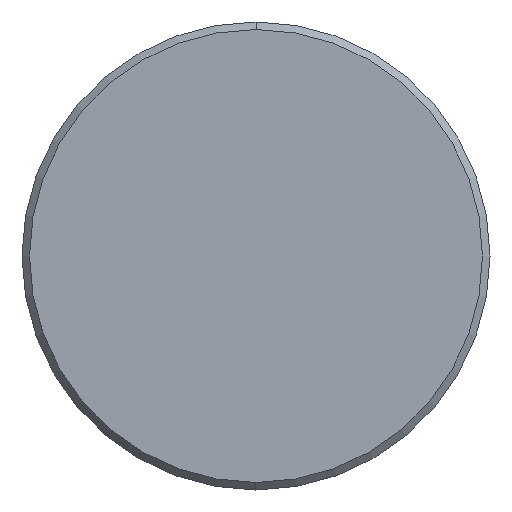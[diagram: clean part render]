
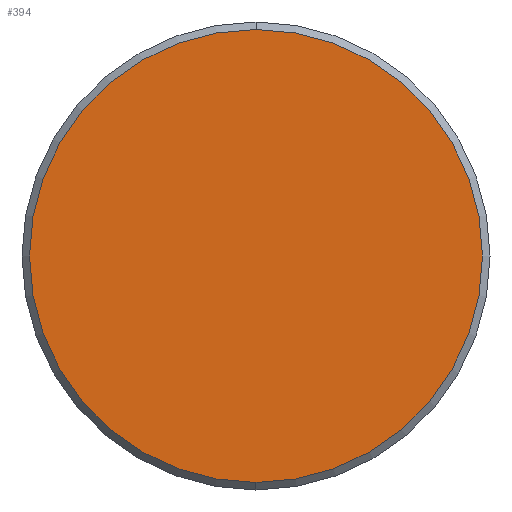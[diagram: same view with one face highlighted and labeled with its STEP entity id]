
A CAD part, left-side view. The second image highlights one B-rep face of the part: STEP entity #394.
In plain terms, the highlighted planar face has unit normal (-1, 0, 0).
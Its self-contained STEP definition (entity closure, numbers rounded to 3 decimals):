
#8 = EDGE_LOOP ( 'NONE', ( #763, #441 ) ) ;
#11 = CARTESIAN_POINT ( 'NONE',  ( 0., 0., 0. ) ) ;
#32 = DIRECTION ( 'NONE',  ( 0., 0., 1. ) ) ;
#44 = AXIS2_PLACEMENT_3D ( 'NONE', #813, #432, #32 ) ;
#98 = EDGE_CURVE ( 'NONE', #338, #246, #252, .T. ) ;
#140 = DIRECTION ( 'NONE',  ( 0., 0., -1. ) ) ;
#188 = CIRCLE ( 'NONE', #44, 15. ) ;
#197 = AXIS2_PLACEMENT_3D ( 'NONE', #11, #596, #140 ) ;
#223 = CARTESIAN_POINT ( 'NONE',  ( 0., 0., -15. ) ) ;
#246 = VERTEX_POINT ( 'NONE', #223 ) ;
#252 = CIRCLE ( 'NONE', #670, 15. ) ;
#338 = VERTEX_POINT ( 'NONE', #798 ) ;
#394 = ADVANCED_FACE ( 'NONE', ( #429 ), #467, .F. ) ;
#429 = FACE_OUTER_BOUND ( 'NONE', #8, .T. ) ;
#432 = DIRECTION ( 'NONE',  ( -1., 0., 0. ) ) ;
#437 = DIRECTION ( 'NONE',  ( 0., 0., 1. ) ) ;
#441 = ORIENTED_EDGE ( 'NONE', *, *, #633, .T. ) ;
#467 = PLANE ( 'NONE',  #197 ) ;
#497 = CARTESIAN_POINT ( 'NONE',  ( 0., 0., 0. ) ) ;
#596 = DIRECTION ( 'NONE',  ( 1., 0., 0. ) ) ;
#617 = DIRECTION ( 'NONE',  ( -1., 0., 0. ) ) ;
#633 = EDGE_CURVE ( 'NONE', #246, #338, #188, .T. ) ;
#670 = AXIS2_PLACEMENT_3D ( 'NONE', #497, #617, #437 ) ;
#763 = ORIENTED_EDGE ( 'NONE', *, *, #98, .T. ) ;
#798 = CARTESIAN_POINT ( 'NONE',  ( 0., 0., 15. ) ) ;
#813 = CARTESIAN_POINT ( 'NONE',  ( 0., 0., 0. ) ) ;
